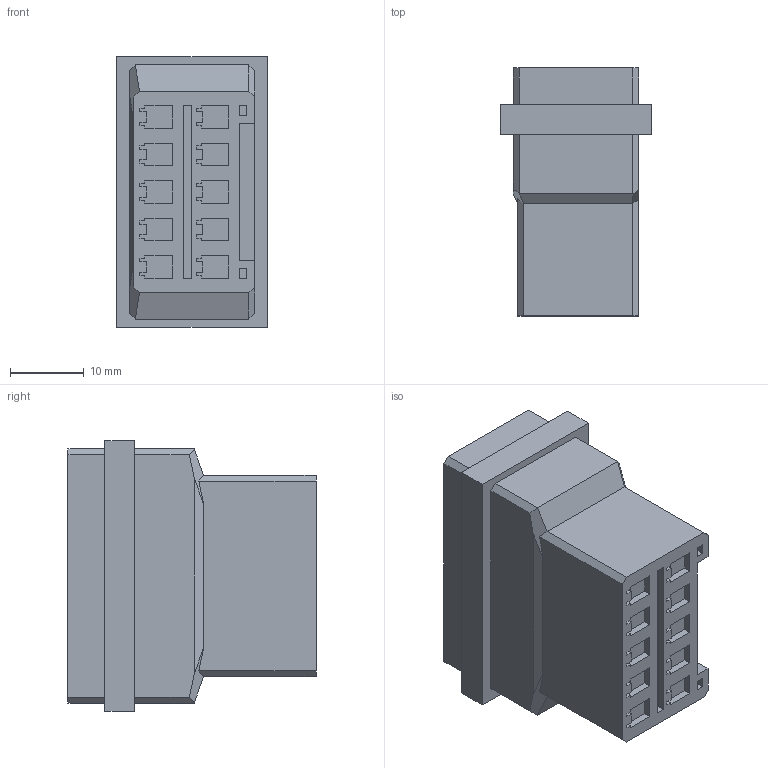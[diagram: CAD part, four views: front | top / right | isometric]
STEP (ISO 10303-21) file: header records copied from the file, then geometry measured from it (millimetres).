
FILE_DESCRIPTION (( 'STEP AP203' ), '1' );
FILE_NAME ('HC-5084-5SY-05（5.08 母孔座 -HCTL）.STEP', '2024-08-10T07:33:09', ( '' ), ( '' ), 'SwSTEP 2.0', 'SolidWorks 2022', '' );
FILE_SCHEMA (( 'CONFIG_CONTROL_DESIGN' ));
Length unit declared in the file: millimetre
Products named in the file (1): HC-5084-5SY-05（5.08 母孔座 -HCTL）
Bounding box: 20.32 x 33.6 x 36.58 mm (x, y, z)
Volume: 15883.1 mm3; surface area: 6212.1 mm2
Topology: 1 solids, 1 shells, 327 faces, 866 edges, 576 vertices
Faces by surface type: plane 327
Entity records: 9985 total; most frequent: CARTESIAN_POINT 1770, ORIENTED_EDGE 1732, DIRECTION 1522, EDGE_CURVE 866, VECTOR 866, LINE 866, VERTEX_POINT 576, EDGE_LOOP 362
